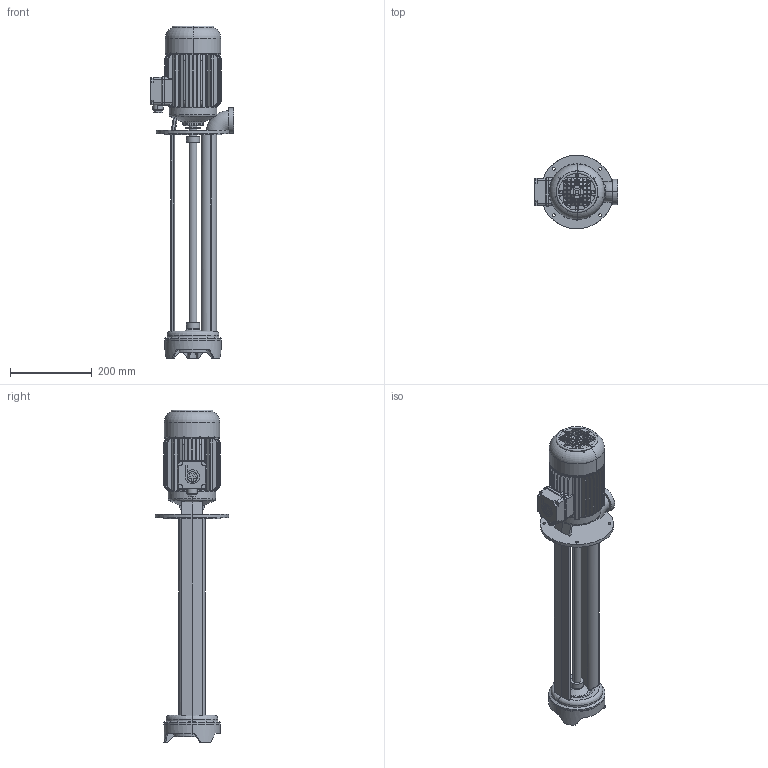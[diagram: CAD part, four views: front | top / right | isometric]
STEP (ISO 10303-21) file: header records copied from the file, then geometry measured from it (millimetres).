
FILE_DESCRIPTION(('no description'),'unknown implementation level');
FILE_NAME('TA250_550_5.stp',' ',('K. H. Brinkmann GmbH & Co. KG'),('CADClick - KiM GmbH - www.kimweb.de'),'unknown preprocess','ACIS','unknown authorization');
FILE_SCHEMA(('automotive_design'));
Length unit declared in the file: millimetre
Products named in the file (3): 1; 2; 3
Bounding box: 205 x 180 x 814 mm (x, y, z)
Volume: 4994470.3 mm3; surface area: 637376.2 mm2
Topology: 3 solids, 3 shells, 855 faces, 2369 edges, 1546 vertices
Faces by surface type: plane 507, cylinder 190, torus 110, cone 48
Entity records: 59258 total; most frequent: CARTESIAN_POINT 10565, STYLED_ITEM 4773, PRESENTATION_STYLE_ASSIGNMENT 4773, COLOUR_RGB 4773, ORIENTED_EDGE 4738, DIRECTION 4513, EDGE_CURVE 2369, CURVE_STYLE 2369
